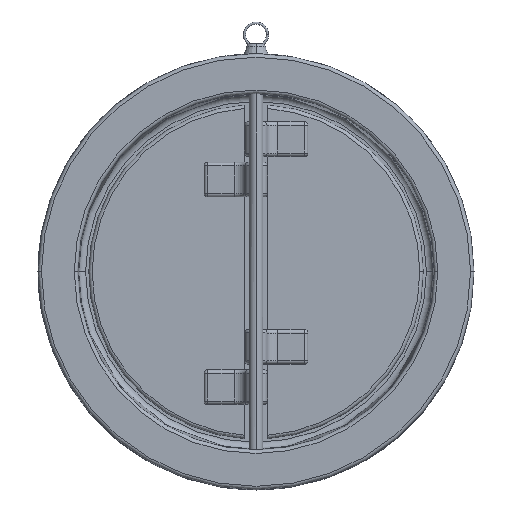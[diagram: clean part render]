
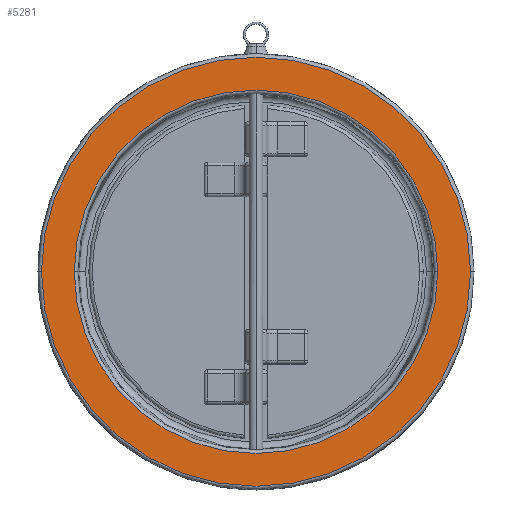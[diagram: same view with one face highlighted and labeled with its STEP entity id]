
A CAD part, top view. The second image highlights one B-rep face of the part: STEP entity #5281.
In plain terms, the highlighted planar face has unit normal (0, 0, 1).
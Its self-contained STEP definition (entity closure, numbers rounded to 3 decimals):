
#177 = ORIENTED_EDGE ( 'NONE', *, *, #11696, .T. ) ;
#511 = CARTESIAN_POINT ( 'NONE',  ( 157.552, 0., 57. ) ) ;
#824 = CARTESIAN_POINT ( 'NONE',  ( 0., 0., 57. ) ) ;
#827 = EDGE_CURVE ( 'NONE', #14543, #9150, #9409, .T. ) ;
#1585 = VERTEX_POINT ( 'NONE', #511 ) ;
#2111 = AXIS2_PLACEMENT_3D ( 'NONE', #5960, #4508, #5736 ) ;
#2317 = DIRECTION ( 'NONE',  ( 0., 0., 1. ) ) ;
#2416 = CARTESIAN_POINT ( 'NONE',  ( 0., 0., 57. ) ) ;
#2636 = AXIS2_PLACEMENT_3D ( 'NONE', #2416, #11833, #14144 ) ;
#3263 = DIRECTION ( 'NONE',  ( 1., 0., 0. ) ) ;
#3652 = CARTESIAN_POINT ( 'NONE',  ( 186., 0., 57. ) ) ;
#3805 = EDGE_LOOP ( 'NONE', ( #3945, #13782 ) ) ;
#3872 = EDGE_CURVE ( 'NONE', #9150, #14543, #8322, .T. ) ;
#3945 = ORIENTED_EDGE ( 'NONE', *, *, #3872, .T. ) ;
#3946 = CARTESIAN_POINT ( 'NONE',  ( -157.552, 0., 57. ) ) ;
#4482 = CARTESIAN_POINT ( 'NONE',  ( 0., 0., 57. ) ) ;
#4508 = DIRECTION ( 'NONE',  ( 0., 0., -1. ) ) ;
#4588 = VERTEX_POINT ( 'NONE', #3946 ) ;
#5081 = EDGE_CURVE ( 'NONE', #1585, #4588, #5803, .T. ) ;
#5281 = ADVANCED_FACE ( 'NONE', ( #9422, #15035 ), #14038, .T. ) ;
#5313 = CIRCLE ( 'NONE', #6806, 157.552 ) ;
#5736 = DIRECTION ( 'NONE',  ( 1., 0., 0. ) ) ;
#5803 = CIRCLE ( 'NONE', #2111, 157.552 ) ;
#5824 = CARTESIAN_POINT ( 'NONE',  ( -186., 0., 57. ) ) ;
#5960 = CARTESIAN_POINT ( 'NONE',  ( 0., 0., 57. ) ) ;
#6806 = AXIS2_PLACEMENT_3D ( 'NONE', #824, #11318, #14839 ) ;
#8322 = CIRCLE ( 'NONE', #2636, 186. ) ;
#9150 = VERTEX_POINT ( 'NONE', #3652 ) ;
#9409 = CIRCLE ( 'NONE', #11636, 186. ) ;
#9422 = FACE_BOUND ( 'NONE', #14949, .T. ) ;
#9514 = AXIS2_PLACEMENT_3D ( 'NONE', #4482, #2317, #3263 ) ;
#9586 = DIRECTION ( 'NONE',  ( 0., 0., 1. ) ) ;
#11318 = DIRECTION ( 'NONE',  ( 0., 0., -1. ) ) ;
#11636 = AXIS2_PLACEMENT_3D ( 'NONE', #13344, #9586, #14270 ) ;
#11696 = EDGE_CURVE ( 'NONE', #4588, #1585, #5313, .T. ) ;
#11833 = DIRECTION ( 'NONE',  ( 0., 0., 1. ) ) ;
#13344 = CARTESIAN_POINT ( 'NONE',  ( 0., 0., 57. ) ) ;
#13782 = ORIENTED_EDGE ( 'NONE', *, *, #827, .T. ) ;
#14038 = PLANE ( 'NONE',  #9514 ) ;
#14144 = DIRECTION ( 'NONE',  ( 1., 0., 0. ) ) ;
#14270 = DIRECTION ( 'NONE',  ( 1., 0., 0. ) ) ;
#14543 = VERTEX_POINT ( 'NONE', #5824 ) ;
#14779 = ORIENTED_EDGE ( 'NONE', *, *, #5081, .T. ) ;
#14839 = DIRECTION ( 'NONE',  ( 1., 0., 0. ) ) ;
#14949 = EDGE_LOOP ( 'NONE', ( #14779, #177 ) ) ;
#15035 = FACE_OUTER_BOUND ( 'NONE', #3805, .T. ) ;
